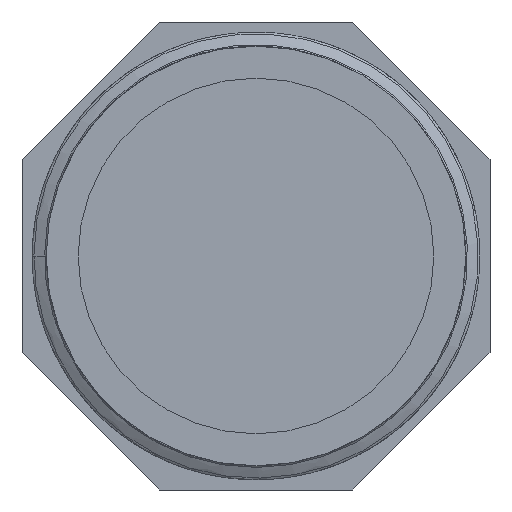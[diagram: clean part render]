
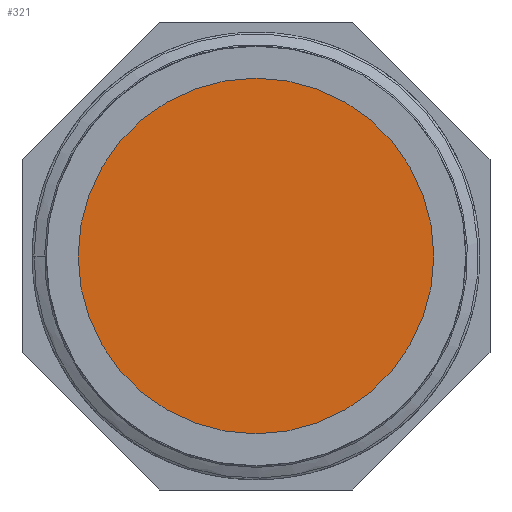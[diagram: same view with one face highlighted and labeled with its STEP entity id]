
A CAD part, front view. The second image highlights one B-rep face of the part: STEP entity #321.
In plain terms, the highlighted planar face has unit normal (0, -1, 0).
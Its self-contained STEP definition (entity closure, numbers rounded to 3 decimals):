
#22=PLANE('',#342);
#37=CIRCLE('',#343,19.);
#47=FACE_OUTER_BOUND('',#68,.T.);
#68=EDGE_LOOP('',(#263));
#166=VERTEX_POINT('',#4177);
#202=EDGE_CURVE('',#166,#166,#37,.T.);
#263=ORIENTED_EDGE('',*,*,#202,.F.);
#321=ADVANCED_FACE('',(#47),#22,.T.);
#342=AXIS2_PLACEMENT_3D('',#4176,#383,#384);
#343=AXIS2_PLACEMENT_3D('',#4178,#385,#386);
#383=DIRECTION('center_axis',(0.,-1.,0.));
#384=DIRECTION('ref_axis',(0.,0.,-1.));
#385=DIRECTION('center_axis',(0.,1.,0.));
#386=DIRECTION('ref_axis',(1.,0.,0.));
#4176=CARTESIAN_POINT('Origin',(0.,22.,0.));
#4177=CARTESIAN_POINT('',(-19.,22.,0.));
#4178=CARTESIAN_POINT('Origin',(0.,22.,0.));
